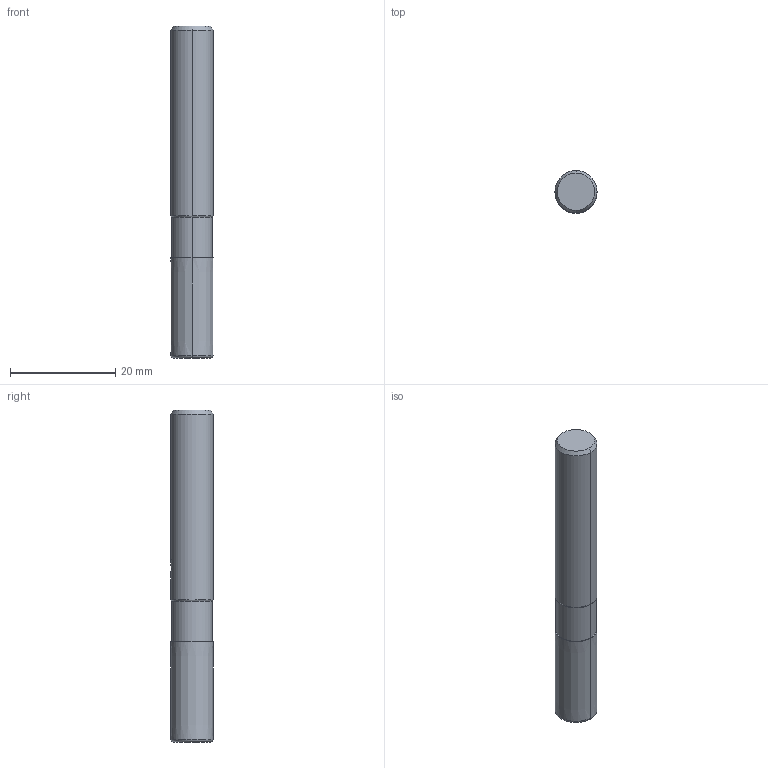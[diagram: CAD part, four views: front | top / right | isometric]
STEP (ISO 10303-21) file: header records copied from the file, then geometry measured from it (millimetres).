
FILE_DESCRIPTION(('no description'),'unknown implementation level');
FILE_NAME('solidwgglkvR3YDMuDO02qVQHhiqaj0Y_1.STP',' ',('CIMSOURCE GmbH'),('CADClick - KiM GmbH - www.kimweb.de'),'unknown preprocess','ACIS','unknown authorization');
FILE_SCHEMA(('automotive_design'));
Length unit declared in the file: millimetre
Products named in the file (2): NOCUT; CUT
Bounding box: 8 x 8 x 63 mm (x, y, z)
Volume: 3131.5 mm3; surface area: 2233.8 mm2
Topology: 2 solids, 2 shells, 42 faces, 95 edges, 58 vertices
Faces by surface type: cylinder 16, cone 14, plane 10, torus 2
Entity records: 2540 total; most frequent: CARTESIAN_POINT 429, DIRECTION 217, STYLED_ITEM 197, PRESENTATION_STYLE_ASSIGNMENT 197, COLOUR_RGB 197, ORIENTED_EDGE 190, EDGE_CURVE 95, CURVE_STYLE 95
